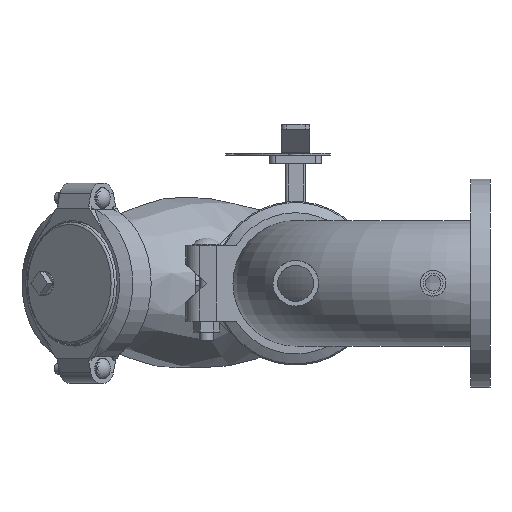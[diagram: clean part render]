
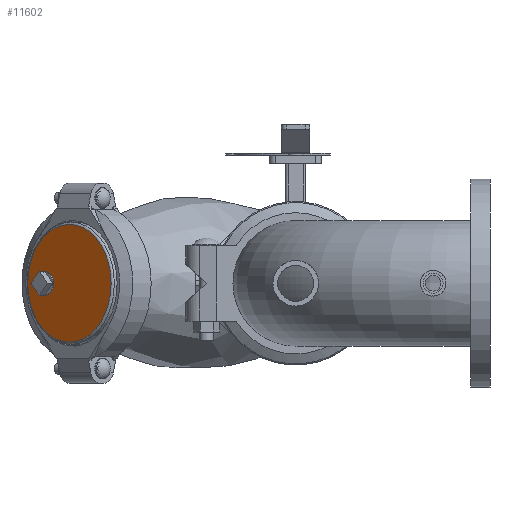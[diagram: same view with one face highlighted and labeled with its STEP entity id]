
A CAD part, front view. The second image highlights one B-rep face of the part: STEP entity #11602.
In plain terms, the highlighted planar face has unit normal (-0.707, -0.707, 0) as drawn and (1, 0, 0) by its records, which use the part's own axes.
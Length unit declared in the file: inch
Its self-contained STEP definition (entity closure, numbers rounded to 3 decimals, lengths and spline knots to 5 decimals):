
#2267=FACE_BOUND('',#3328,.T.);
#2639=FACE_OUTER_BOUND('',#3327,.T.);
#3327=EDGE_LOOP('',(#8511,#8512));
#3328=EDGE_LOOP('',(#8513));
#4017=CIRCLE('',#12784,0.625);
#4025=CIRCLE('',#12795,3.1075);
#4026=CIRCLE('',#12796,3.1075);
#4866=VERTEX_POINT('',#22308);
#4874=VERTEX_POINT('',#22329);
#4875=VERTEX_POINT('',#22330);
#6181=EDGE_CURVE('',#4866,#4866,#4017,.T.);
#6190=EDGE_CURVE('',#4874,#4875,#4025,.T.);
#6191=EDGE_CURVE('',#4875,#4874,#4026,.T.);
#8511=ORIENTED_EDGE('',*,*,#6190,.T.);
#8512=ORIENTED_EDGE('',*,*,#6191,.T.);
#8513=ORIENTED_EDGE('',*,*,#6181,.T.);
#10474=PLANE('',#12798);
#11602=ADVANCED_FACE('',(#2639,#2267),#10474,.T.);
#12784=AXIS2_PLACEMENT_3D('',#22310,#14994,#14995);
#12795=AXIS2_PLACEMENT_3D('',#22331,#15017,#15018);
#12796=AXIS2_PLACEMENT_3D('',#22332,#15019,#15020);
#12798=AXIS2_PLACEMENT_3D('',#22334,#15023,#15024);
#14994=DIRECTION('center_axis',(-1.,0.,0.));
#14995=DIRECTION('ref_axis',(0.,0.,1.));
#15017=DIRECTION('center_axis',(1.,0.,0.));
#15018=DIRECTION('ref_axis',(0.,0.,-1.));
#15019=DIRECTION('center_axis',(1.,0.,0.));
#15020=DIRECTION('ref_axis',(0.,0.,-1.));
#15023=DIRECTION('center_axis',(1.,0.,0.));
#15024=DIRECTION('ref_axis',(0.,0.,-1.));
#22308=CARTESIAN_POINT('',(1.2,1.8,-0.625));
#22310=CARTESIAN_POINT('Origin',(1.2,1.8,0.));
#22329=CARTESIAN_POINT('',(1.2,3.1075,0.));
#22330=CARTESIAN_POINT('',(1.2,0.,3.1075));
#22331=CARTESIAN_POINT('Origin',(1.2,0.,0.));
#22332=CARTESIAN_POINT('Origin',(1.2,0.,0.));
#22334=CARTESIAN_POINT('Origin',(1.2,0.,0.));
